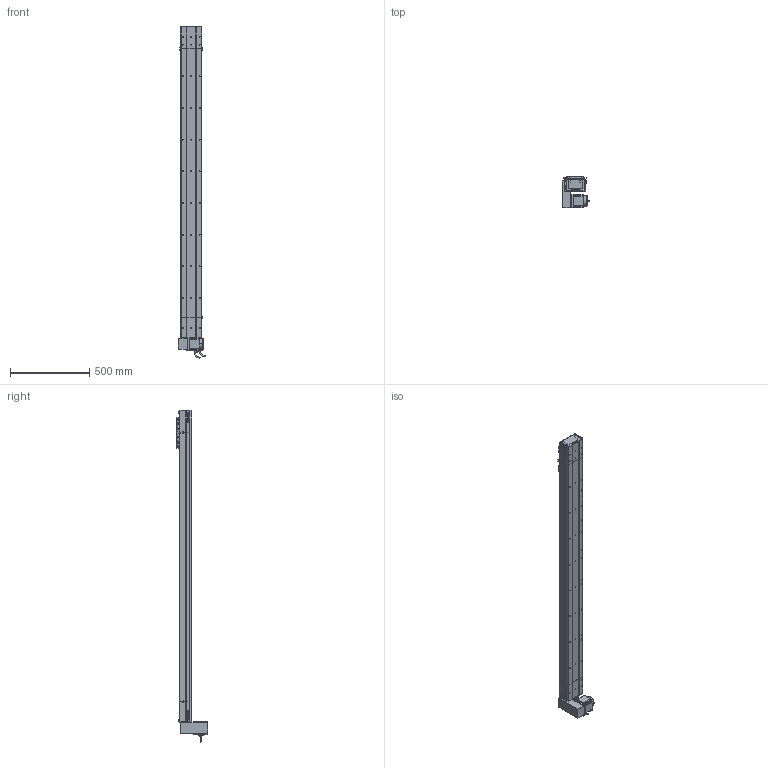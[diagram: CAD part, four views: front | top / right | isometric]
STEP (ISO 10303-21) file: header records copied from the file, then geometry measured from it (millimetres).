
FILE_DESCRIPTION (( 'STEP AP214' ), '1' );
FILE_NAME ('D14 CBH S1700 RU.STEP', '2010-06-30T06:58:36', ( 'Conseil Régional Haute-Normandie' ), ( 'Conseil Régional Haute-Normandie' ), 'SwSTEP 2.0', 'SolidWorks 2010', '' );
FILE_SCHEMA (( 'AUTOMOTIVE_DESIGN' ));
Length unit declared in the file: millimetre
Products named in the file (28): plaque fermeture Head D14 CBH; Conecteur_Default; Conecteur2_Default; GMB 90 70 310; Support moteur Head D14 CBH; codeur GMB 90 70 310; corps GMB 90 70 310; avant GMB 90 70 310; Course CBH S1700; D14 CBH S1700 RU; Tail CBH D14 A; couvercle CBH S1700; corps CBH S1700; couvercle tail CBH D14; plaque de bout tail CBH d14; corps tail  CBH d14 A; chariot supérieur D14; charriot inférieur D14; chariot D14; Head D14 CBH; Head D14 CBH RU; vis CHC M5; vis CHC M7; plaque de bout Head D14 CBH; corps Head D14 CBH; Vis CHC M8; plaque de maintient CBH D14; couvercle Head D14 CBH
Assembly tree (51 placements, depth 4):
  D14 CBH S1700 RU
    Course CBH S1700
      corps CBH S1700
      couvercle CBH S1700
    Head D14 CBH RU
      Head D14 CBH
        vis CHC M7  x4
        plaque de maintient CBH D14
        Vis CHC M8  x2
        couvercle Head D14 CBH
        plaque de bout Head D14 CBH
        corps Head D14 CBH
      plaque fermeture Head D14 CBH  x3
      Support moteur Head D14 CBH
      GMB 90 70 310
        Conecteur_Default
        codeur GMB 90 70 310
        corps GMB 90 70 310
        avant GMB 90 70 310
        Conecteur2_Default
    Tail CBH D14 A
      corps tail  CBH d14 A
      vis CHC M7  x4
      Vis CHC M8  x2
      plaque de bout tail CBH d14
      plaque de maintient CBH D14
      couvercle tail CBH D14
    chariot D14
      vis CHC M7  x8
      vis CHC M5  x4
      charriot inférieur D14
      chariot supérieur D14
Bounding box: 171.5 x 195.75 x 2095.95 mm (x, y, z)
Volume: 6231683.8 mm3; surface area: 2031029.1 mm2
Topology: 51 solids, 51 shells, 2486 faces, 6426 edges, 4222 vertices
Faces by surface type: plane 1371, bspline 538, cylinder 464, torus 61, cone 48, sphere 4
Entity records: 110137 total; most frequent: CARTESIAN_POINT 58312, ORIENTED_EDGE 11148, DIRECTION 8471, EDGE_CURVE 5574, VECTOR 3693, LINE 3693, VERTEX_POINT 3686, AXIS2_PLACEMENT_3D 2389
